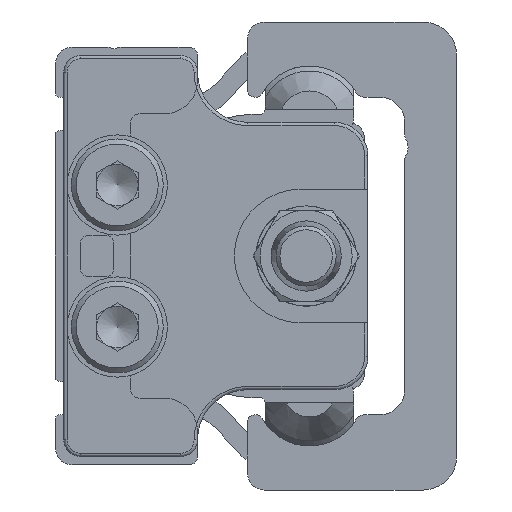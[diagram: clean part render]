
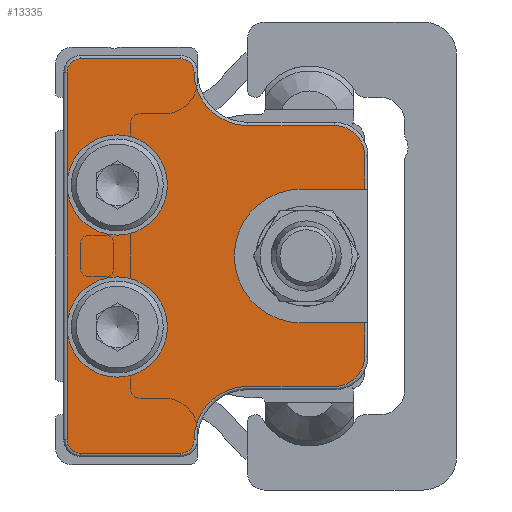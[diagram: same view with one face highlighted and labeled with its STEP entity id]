
A CAD part, left-side view. The second image highlights one B-rep face of the part: STEP entity #13335.
In plain terms, the highlighted planar face has unit normal (-1, 0, 0) as drawn and (0, 0, 1) by its records, which use the part's own axes.
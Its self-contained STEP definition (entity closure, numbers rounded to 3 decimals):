
#864=CIRCLE('',#14778,3.);
#865=CIRCLE('',#14779,0.8);
#866=CIRCLE('',#14780,0.8);
#867=CIRCLE('',#14781,3.2);
#868=CIRCLE('',#14782,1.8);
#869=CIRCLE('',#14783,4.);
#870=CIRCLE('',#14784,1.8);
#871=CIRCLE('',#14785,3.2);
#872=CIRCLE('',#14786,0.8);
#873=CIRCLE('',#14787,0.8);
#874=CIRCLE('',#14788,3.);
#4232=ORIENTED_EDGE('',*,*,#6449,.F.);
#4233=ORIENTED_EDGE('',*,*,#6450,.T.);
#4234=ORIENTED_EDGE('',*,*,#6451,.T.);
#4235=ORIENTED_EDGE('',*,*,#6452,.T.);
#4236=ORIENTED_EDGE('',*,*,#6453,.T.);
#4237=ORIENTED_EDGE('',*,*,#6454,.T.);
#4238=ORIENTED_EDGE('',*,*,#6455,.T.);
#4239=ORIENTED_EDGE('',*,*,#6456,.T.);
#4240=ORIENTED_EDGE('',*,*,#6457,.T.);
#4241=ORIENTED_EDGE('',*,*,#6458,.F.);
#4242=ORIENTED_EDGE('',*,*,#6459,.F.);
#4243=ORIENTED_EDGE('',*,*,#6460,.F.);
#4244=ORIENTED_EDGE('',*,*,#6461,.T.);
#4245=ORIENTED_EDGE('',*,*,#6462,.T.);
#4246=ORIENTED_EDGE('',*,*,#6463,.T.);
#4247=ORIENTED_EDGE('',*,*,#6464,.T.);
#4248=ORIENTED_EDGE('',*,*,#6465,.T.);
#4249=ORIENTED_EDGE('',*,*,#6466,.T.);
#4250=ORIENTED_EDGE('',*,*,#6467,.T.);
#4251=ORIENTED_EDGE('',*,*,#6468,.T.);
#4252=ORIENTED_EDGE('',*,*,#6469,.F.);
#4253=ORIENTED_EDGE('',*,*,#6470,.T.);
#6449=EDGE_CURVE('',#7862,#7862,#864,.T.);
#6450=EDGE_CURVE('',#7862,#7863,#8909,.T.);
#6451=EDGE_CURVE('',#7863,#7864,#865,.T.);
#6452=EDGE_CURVE('',#7864,#7865,#8910,.T.);
#6453=EDGE_CURVE('',#7865,#7866,#866,.T.);
#6454=EDGE_CURVE('',#7866,#7867,#867,.F.);
#6455=EDGE_CURVE('',#7867,#7868,#8911,.T.);
#6456=EDGE_CURVE('',#7868,#7869,#868,.T.);
#6457=EDGE_CURVE('',#7869,#7870,#8912,.T.);
#6458=EDGE_CURVE('',#7871,#7870,#8913,.T.);
#6459=EDGE_CURVE('',#7872,#7871,#869,.T.);
#6460=EDGE_CURVE('',#7873,#7872,#8914,.T.);
#6461=EDGE_CURVE('',#7873,#7874,#8915,.T.);
#6462=EDGE_CURVE('',#7874,#7875,#870,.T.);
#6463=EDGE_CURVE('',#7875,#7876,#8916,.T.);
#6464=EDGE_CURVE('',#7876,#7877,#871,.F.);
#6465=EDGE_CURVE('',#7877,#7878,#872,.T.);
#6466=EDGE_CURVE('',#7878,#7879,#8917,.T.);
#6467=EDGE_CURVE('',#7879,#7880,#873,.T.);
#6468=EDGE_CURVE('',#7880,#7881,#8918,.T.);
#6469=EDGE_CURVE('',#7881,#7881,#874,.T.);
#6470=EDGE_CURVE('',#7881,#7862,#8919,.T.);
#7862=VERTEX_POINT('',#22724);
#7863=VERTEX_POINT('',#22726);
#7864=VERTEX_POINT('',#22728);
#7865=VERTEX_POINT('',#22730);
#7866=VERTEX_POINT('',#22732);
#7867=VERTEX_POINT('',#22734);
#7868=VERTEX_POINT('',#22736);
#7869=VERTEX_POINT('',#22738);
#7870=VERTEX_POINT('',#22740);
#7871=VERTEX_POINT('',#22742);
#7872=VERTEX_POINT('',#22744);
#7873=VERTEX_POINT('',#22746);
#7874=VERTEX_POINT('',#22748);
#7875=VERTEX_POINT('',#22750);
#7876=VERTEX_POINT('',#22752);
#7877=VERTEX_POINT('',#22754);
#7878=VERTEX_POINT('',#22756);
#7879=VERTEX_POINT('',#22758);
#7880=VERTEX_POINT('',#22760);
#7881=VERTEX_POINT('',#22762);
#8909=LINE('',#22725,#9907);
#8910=LINE('',#22729,#9908);
#8911=LINE('',#22735,#9909);
#8912=LINE('',#22739,#9910);
#8913=LINE('',#22741,#9911);
#8914=LINE('',#22745,#9912);
#8915=LINE('',#22747,#9913);
#8916=LINE('',#22751,#9914);
#8917=LINE('',#22757,#9915);
#8918=LINE('',#22761,#9916);
#8919=LINE('',#22764,#9917);
#9907=VECTOR('',#18379,1000.);
#9908=VECTOR('',#18382,1000.);
#9909=VECTOR('',#18387,1000.);
#9910=VECTOR('',#18390,1000.);
#9911=VECTOR('',#18391,1000.);
#9912=VECTOR('',#18394,1000.);
#9913=VECTOR('',#18395,1000.);
#9914=VECTOR('',#18398,1000.);
#9915=VECTOR('',#18403,1000.);
#9916=VECTOR('',#18406,1000.);
#9917=VECTOR('',#18409,1000.);
#10947=EDGE_LOOP('',(#4232,#4233,#4234,#4235,#4236,#4237,#4238,#4239,#4240,
#4241,#4242,#4243,#4244,#4245,#4246,#4247,#4248,#4249,#4250,#4251,#4252,
#4253));
#12040=FACE_BOUND('',#10947,.T.);
#12601=PLANE('',#14777);
#13335=ADVANCED_FACE('',(#12040),#12601,.T.);
#14777=AXIS2_PLACEMENT_3D('',#22722,#18375,#18376);
#14778=AXIS2_PLACEMENT_3D('',#22723,#18377,#18378);
#14779=AXIS2_PLACEMENT_3D('',#22727,#18380,#18381);
#14780=AXIS2_PLACEMENT_3D('',#22731,#18383,#18384);
#14781=AXIS2_PLACEMENT_3D('',#22733,#18385,#18386);
#14782=AXIS2_PLACEMENT_3D('',#22737,#18388,#18389);
#14783=AXIS2_PLACEMENT_3D('',#22743,#18392,#18393);
#14784=AXIS2_PLACEMENT_3D('',#22749,#18396,#18397);
#14785=AXIS2_PLACEMENT_3D('',#22753,#18399,#18400);
#14786=AXIS2_PLACEMENT_3D('',#22755,#18401,#18402);
#14787=AXIS2_PLACEMENT_3D('',#22759,#18404,#18405);
#14788=AXIS2_PLACEMENT_3D('',#22763,#18407,#18408);
#18375=DIRECTION('',(0.,0.,1.));
#18376=DIRECTION('',(1.,0.,0.));
#18377=DIRECTION('',(0.,0.,1.));
#18378=DIRECTION('',(1.,0.,0.));
#18379=DIRECTION('',(-1.,0.,0.));
#18380=DIRECTION('',(0.,0.,1.));
#18381=DIRECTION('',(1.,0.,0.));
#18382=DIRECTION('',(0.,-1.,0.));
#18383=DIRECTION('',(0.,0.,1.));
#18384=DIRECTION('',(1.,0.,0.));
#18385=DIRECTION('',(0.,0.,1.));
#18386=DIRECTION('',(1.,0.,0.));
#18387=DIRECTION('',(0.,-1.,0.));
#18388=DIRECTION('',(0.,0.,1.));
#18389=DIRECTION('',(1.,0.,0.));
#18390=DIRECTION('',(1.,0.,0.));
#18391=DIRECTION('',(0.,-1.,0.));
#18392=DIRECTION('',(0.,0.,1.));
#18393=DIRECTION('',(1.,0.,0.));
#18394=DIRECTION('',(0.,1.,0.));
#18395=DIRECTION('',(1.,0.,0.));
#18396=DIRECTION('',(0.,0.,1.));
#18397=DIRECTION('',(1.,0.,0.));
#18398=DIRECTION('',(0.,1.,0.));
#18399=DIRECTION('',(0.,0.,1.));
#18400=DIRECTION('',(1.,0.,0.));
#18401=DIRECTION('',(0.,0.,1.));
#18402=DIRECTION('',(1.,0.,0.));
#18403=DIRECTION('',(0.,1.,0.));
#18404=DIRECTION('',(0.,0.,1.));
#18405=DIRECTION('',(1.,0.,0.));
#18406=DIRECTION('',(-1.,0.,0.));
#18407=DIRECTION('',(0.,0.,1.));
#18408=DIRECTION('',(1.,0.,0.));
#18409=DIRECTION('',(-1.,0.,0.));
#22722=CARTESIAN_POINT('',(-11.,-7.,4.5));
#22723=CARTESIAN_POINT('',(-4.25,-3.2,4.5));
#22724=CARTESIAN_POINT('',(-4.25,-0.2,4.5));
#22725=CARTESIAN_POINT('',(-11.,-0.2,4.5));
#22726=CARTESIAN_POINT('',(-11.,-0.2,4.5));
#22727=CARTESIAN_POINT('',(-11.,-1.,4.5));
#22728=CARTESIAN_POINT('',(-11.8,-1.,4.5));
#22729=CARTESIAN_POINT('',(-11.8,-7.,4.5));
#22730=CARTESIAN_POINT('',(-11.8,-7.,4.5));
#22731=CARTESIAN_POINT('',(-11.,-7.,4.5));
#22732=CARTESIAN_POINT('',(-11.,-7.8,4.5));
#22733=CARTESIAN_POINT('',(-11.,-11.,4.5));
#22734=CARTESIAN_POINT('',(-7.8,-11.,4.5));
#22735=CARTESIAN_POINT('',(-7.8,-16.2,4.5));
#22736=CARTESIAN_POINT('',(-7.8,-16.2,4.5));
#22737=CARTESIAN_POINT('',(-6.,-16.2,4.5));
#22738=CARTESIAN_POINT('',(-6.,-18.,4.5));
#22739=CARTESIAN_POINT('',(-4.,-18.,4.5));
#22740=CARTESIAN_POINT('',(-4.,-18.,4.5));
#22741=CARTESIAN_POINT('',(-4.,-14.2,4.5));
#22742=CARTESIAN_POINT('',(-4.,-14.2,4.5));
#22743=CARTESIAN_POINT('',(0.,-14.2,4.5));
#22744=CARTESIAN_POINT('',(4.,-14.2,4.5));
#22745=CARTESIAN_POINT('',(4.,-19.2,4.5));
#22746=CARTESIAN_POINT('',(4.,-18.,4.5));
#22747=CARTESIAN_POINT('',(6.,-18.,4.5));
#22748=CARTESIAN_POINT('',(6.,-18.,4.5));
#22749=CARTESIAN_POINT('',(6.,-16.2,4.5));
#22750=CARTESIAN_POINT('',(7.8,-16.2,4.5));
#22751=CARTESIAN_POINT('',(7.8,-11.,4.5));
#22752=CARTESIAN_POINT('',(7.8,-11.,4.5));
#22753=CARTESIAN_POINT('',(11.,-11.,4.5));
#22754=CARTESIAN_POINT('',(11.,-7.8,4.5));
#22755=CARTESIAN_POINT('',(11.,-7.,4.5));
#22756=CARTESIAN_POINT('',(11.8,-7.,4.5));
#22757=CARTESIAN_POINT('',(11.8,-1.,4.5));
#22758=CARTESIAN_POINT('',(11.8,-1.,4.5));
#22759=CARTESIAN_POINT('',(11.,-1.,4.5));
#22760=CARTESIAN_POINT('',(11.,-0.2,4.5));
#22761=CARTESIAN_POINT('',(-11.,-0.2,4.5));
#22762=CARTESIAN_POINT('',(4.25,-0.2,4.5));
#22763=CARTESIAN_POINT('',(4.25,-3.2,4.5));
#22764=CARTESIAN_POINT('',(-11.,-0.2,4.5));
